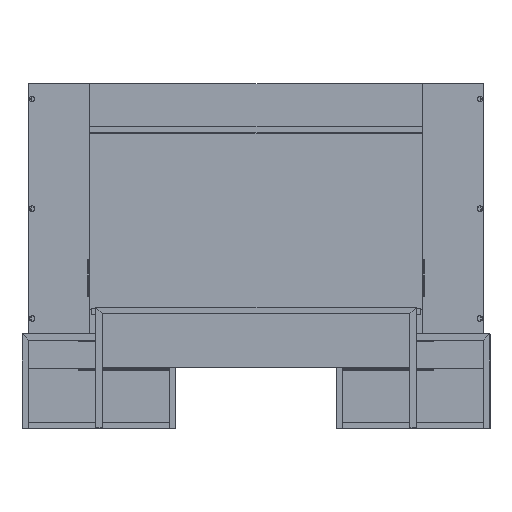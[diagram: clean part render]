
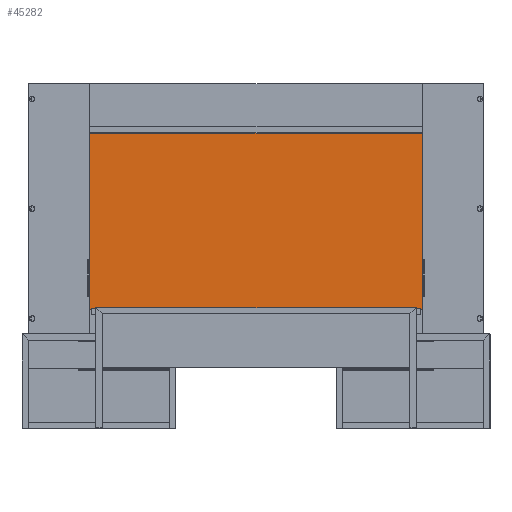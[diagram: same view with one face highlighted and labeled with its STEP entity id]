
A CAD part, top view. The second image highlights one B-rep face of the part: STEP entity #45282.
In plain terms, the highlighted planar face has unit normal (0, 0, 1).
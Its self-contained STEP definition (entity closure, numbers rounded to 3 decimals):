
#9552=FACE_OUTER_BOUND('',#12221,.T.);
#12221=EDGE_LOOP('',(#40617,#40618,#40619,#40620));
#15847=LINE('',#82936,#19641);
#15850=LINE('',#82942,#19644);
#15853=LINE('',#82948,#19647);
#15856=LINE('',#82952,#19650);
#19641=VECTOR('',#63771,0.394);
#19644=VECTOR('',#63776,0.394);
#19647=VECTOR('',#63781,0.394);
#19650=VECTOR('',#63786,0.394);
#23463=VERTEX_POINT('',#82933);
#23464=VERTEX_POINT('',#82935);
#23466=VERTEX_POINT('',#82941);
#23468=VERTEX_POINT('',#82947);
#29230=EDGE_CURVE('',#23464,#23463,#15847,.T.);
#29233=EDGE_CURVE('',#23466,#23464,#15850,.T.);
#29236=EDGE_CURVE('',#23468,#23466,#15853,.T.);
#29239=EDGE_CURVE('',#23463,#23468,#15856,.T.);
#40617=ORIENTED_EDGE('',*,*,#29239,.T.);
#40618=ORIENTED_EDGE('',*,*,#29236,.T.);
#40619=ORIENTED_EDGE('',*,*,#29233,.T.);
#40620=ORIENTED_EDGE('',*,*,#29230,.T.);
#42842=PLANE('',#51112);
#45282=ADVANCED_FACE('',(#9552),#42842,.T.);
#51112=AXIS2_PLACEMENT_3D('',#82953,#63787,#63788);
#63771=DIRECTION('',(0.,1.,0.));
#63776=DIRECTION('',(1.,0.,0.));
#63781=DIRECTION('',(0.,-1.,0.));
#63786=DIRECTION('',(-1.,0.,0.));
#63787=DIRECTION('center_axis',(0.,0.,1.));
#63788=DIRECTION('ref_axis',(1.,0.,0.));
#82933=CARTESIAN_POINT('',(80.938,42.938,1.));
#82935=CARTESIAN_POINT('',(80.938,0.,1.));
#82936=CARTESIAN_POINT('',(80.938,0.,1.));
#82941=CARTESIAN_POINT('',(0.,0.,1.));
#82942=CARTESIAN_POINT('',(0.,0.,1.));
#82947=CARTESIAN_POINT('',(0.,42.938,1.));
#82948=CARTESIAN_POINT('',(0.,42.938,1.));
#82952=CARTESIAN_POINT('',(80.938,42.938,1.));
#82953=CARTESIAN_POINT('Origin',(40.469,21.469,1.));
